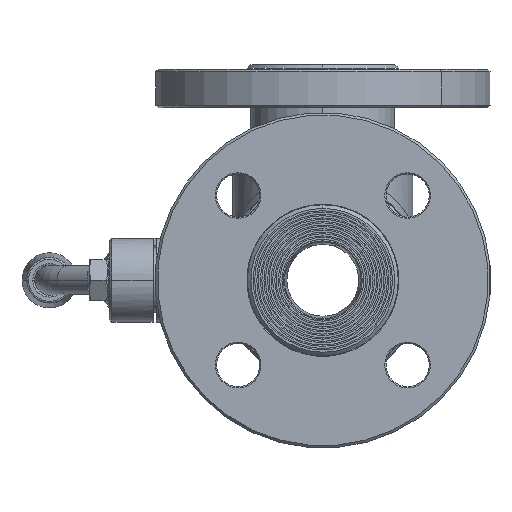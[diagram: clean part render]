
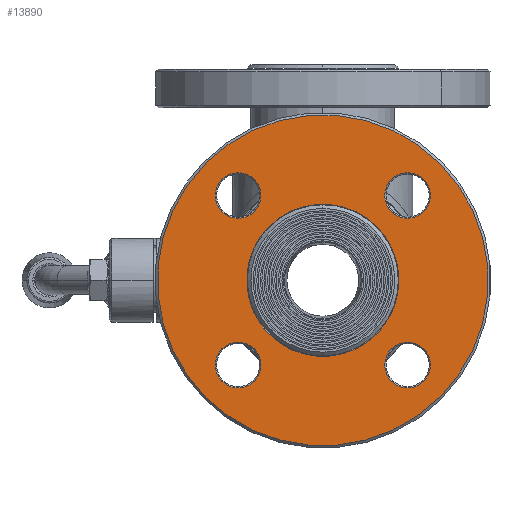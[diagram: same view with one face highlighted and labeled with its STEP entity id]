
A CAD part, left-side view. The second image highlights one B-rep face of the part: STEP entity #13890.
In plain terms, the highlighted planar face has unit normal (-1, 0, 0).
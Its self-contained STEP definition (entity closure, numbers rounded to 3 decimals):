
#13321=CARTESIAN_POINT('',(-88.,-35.355,-35.355));
#13322=DIRECTION('',(1.,0.,0.));
#13323=DIRECTION('',(0.,-0.707,-0.707));
#13324=AXIS2_PLACEMENT_3D('',#13321,#13322,#13323);
#13339=CARTESIAN_POINT('',(-88.,0.,
0.));
#13340=DIRECTION('',(-1.,0.,0.));
#13341=DIRECTION('',(0.,0.707,0.707));
#13342=AXIS2_PLACEMENT_3D('',#13339,#13340,#13341);
#13344=CARTESIAN_POINT('',(-88.,0.,
0.));
#13345=DIRECTION('',(-1.,0.,0.));
#13346=DIRECTION('',(0.,-0.707,-0.707));
#13347=AXIS2_PLACEMENT_3D('',#13344,#13345,#13346);
#13349=CARTESIAN_POINT('',(-88.,0.,
0.));
#13350=DIRECTION('',(-1.,0.,0.));
#13351=DIRECTION('',(0.,0.707,0.707));
#13352=AXIS2_PLACEMENT_3D('',#13349,#13350,#13351);
#13354=CARTESIAN_POINT('',(-88.,0.,
0.));
#13355=DIRECTION('',(-1.,0.,0.));
#13356=DIRECTION('',(0.,-0.707,-0.707));
#13357=AXIS2_PLACEMENT_3D('',#13354,#13355,#13356);
#13359=CARTESIAN_POINT('',(-88.,-35.355,-35.355));
#13360=DIRECTION('',(1.,0.,0.));
#13361=DIRECTION('',(0.,0.707,0.707));
#13362=AXIS2_PLACEMENT_3D('',#13359,#13360,#13361);
#13369=CARTESIAN_POINT('',(-88.,35.355,-35.355));
#13370=DIRECTION('',(1.,0.,0.));
#13371=DIRECTION('',(0.,-0.707,-0.707));
#13372=AXIS2_PLACEMENT_3D('',#13369,#13370,#13371);
#13387=CARTESIAN_POINT('',(-88.,35.355,-35.355));
#13388=DIRECTION('',(1.,0.,0.));
#13389=DIRECTION('',(0.,0.707,0.707));
#13390=AXIS2_PLACEMENT_3D('',#13387,#13388,#13389);
#13433=CARTESIAN_POINT('',(-88.,35.355,35.355));
#13434=DIRECTION('',(1.,0.,0.));
#13435=DIRECTION('',(0.,-0.707,-0.707));
#13436=AXIS2_PLACEMENT_3D('',#13433,#13434,#13435);
#13443=CARTESIAN_POINT('',(-88.,35.355,35.355));
#13444=DIRECTION('',(1.,0.,0.));
#13445=DIRECTION('',(0.,0.707,0.707));
#13446=AXIS2_PLACEMENT_3D('',#13443,#13444,#13445);
#13497=CARTESIAN_POINT('',(-88.,-35.355,35.355));
#13498=DIRECTION('',(1.,0.,0.));
#13499=DIRECTION('',(0.,-0.707,-0.707));
#13500=AXIS2_PLACEMENT_3D('',#13497,#13498,#13499);
#13515=CARTESIAN_POINT('',(-88.,-35.355,35.355));
#13516=DIRECTION('',(1.,0.,0.));
#13517=DIRECTION('',(0.,0.707,0.707));
#13518=AXIS2_PLACEMENT_3D('',#13515,#13516,#13517);
#13641=CARTESIAN_POINT('',(-88.,-28.638,42.073));
#13642=CARTESIAN_POINT('',(-88.,-42.073,28.638));
#13643=VERTEX_POINT('',#13641);
#13644=VERTEX_POINT('',#13642);
#13649=CARTESIAN_POINT('',(-88.,28.638,28.638));
#13650=CARTESIAN_POINT('',(-88.,42.073,42.073));
#13651=VERTEX_POINT('',#13649);
#13652=VERTEX_POINT('',#13650);
#13657=CARTESIAN_POINT('',(-88.,42.073,-28.638));
#13658=CARTESIAN_POINT('',(-88.,28.638,-42.073));
#13659=VERTEX_POINT('',#13657);
#13660=VERTEX_POINT('',#13658);
#13665=CARTESIAN_POINT('',(-88.,-28.638,-28.638));
#13666=CARTESIAN_POINT('',(-88.,-42.073,-42.073));
#13667=VERTEX_POINT('',#13665);
#13668=VERTEX_POINT('',#13666);
#13709=CARTESIAN_POINT('',(-88.,22.451,
22.451));
#13710=CARTESIAN_POINT('',(-88.,-22.451,
-22.451));
#13711=VERTEX_POINT('',#13709);
#13712=VERTEX_POINT('',#13710);
#13729=CARTESIAN_POINT('',(-88.,48.79,
48.79));
#13730=CARTESIAN_POINT('',(-88.,-48.79,
-48.79));
#13731=VERTEX_POINT('',#13729);
#13732=VERTEX_POINT('',#13730);
#13850=CARTESIAN_POINT('',(-88.,0.,0.));
#13851=DIRECTION('',(-1.,0.,0.));
#13852=DIRECTION('',(0.,-0.707,-0.707));
#13853=AXIS2_PLACEMENT_3D('',#13850,#13851,#13852);
#13854=PLANE('',#13853);
#13856=ORIENTED_EDGE('',*,*,#13855,.F.);
#13858=ORIENTED_EDGE('',*,*,#13857,.F.);
#13859=EDGE_LOOP('',(#13856,#13858));
#13860=FACE_OUTER_BOUND('',#13859,.F.);
#13862=ORIENTED_EDGE('',*,*,#13861,.F.);
#13864=ORIENTED_EDGE('',*,*,#13863,.F.);
#13865=EDGE_LOOP('',(#13862,#13864));
#13866=FACE_BOUND('',#13865,.F.);
#13868=ORIENTED_EDGE('',*,*,#13867,.F.);
#13870=ORIENTED_EDGE('',*,*,#13869,.F.);
#13871=EDGE_LOOP('',(#13868,#13870));
#13872=FACE_BOUND('',#13871,.F.);
#13874=ORIENTED_EDGE('',*,*,#13873,.F.);
#13876=ORIENTED_EDGE('',*,*,#13875,.F.);
#13877=EDGE_LOOP('',(#13874,#13876));
#13878=FACE_BOUND('',#13877,.F.);
#13880=ORIENTED_EDGE('',*,*,#13879,.T.);
#13882=ORIENTED_EDGE('',*,*,#13881,.T.);
#13883=EDGE_LOOP('',(#13880,#13882));
#13884=FACE_BOUND('',#13883,.F.);
#13885=ORIENTED_EDGE('',*,*,#13840,.F.);
#13887=ORIENTED_EDGE('',*,*,#13886,.F.);
#13888=EDGE_LOOP('',(#13885,#13887));
#13889=FACE_BOUND('',#13888,.F.);
#13325=CIRCLE('',#13324,9.5);
#13343=CIRCLE('',#13342,31.75);
#13348=CIRCLE('',#13347,31.75);
#13353=CIRCLE('',#13352,69.);
#13358=CIRCLE('',#13357,69.);
#13363=CIRCLE('',#13362,9.5);
#13373=CIRCLE('',#13372,9.5);
#13391=CIRCLE('',#13390,9.5);
#13437=CIRCLE('',#13436,9.5);
#13447=CIRCLE('',#13446,9.5);
#13501=CIRCLE('',#13500,9.5);
#13519=CIRCLE('',#13518,9.5);
#13840=EDGE_CURVE('',#13668,#13667,#13325,.T.);
#13855=EDGE_CURVE('',#13731,#13732,#13353,.T.);
#13857=EDGE_CURVE('',#13732,#13731,#13358,.T.);
#13861=EDGE_CURVE('',#13660,#13659,#13373,.T.);
#13863=EDGE_CURVE('',#13659,#13660,#13391,.T.);
#13867=EDGE_CURVE('',#13651,#13652,#13437,.T.);
#13869=EDGE_CURVE('',#13652,#13651,#13447,.T.);
#13873=EDGE_CURVE('',#13644,#13643,#13501,.T.);
#13875=EDGE_CURVE('',#13643,#13644,#13519,.T.);
#13879=EDGE_CURVE('',#13711,#13712,#13343,.T.);
#13881=EDGE_CURVE('',#13712,#13711,#13348,.T.);
#13886=EDGE_CURVE('',#13667,#13668,#13363,.T.);
#13890=ADVANCED_FACE('',(#13860,#13866,#13872,#13878,#13884,#13889),#13854,.T.);
